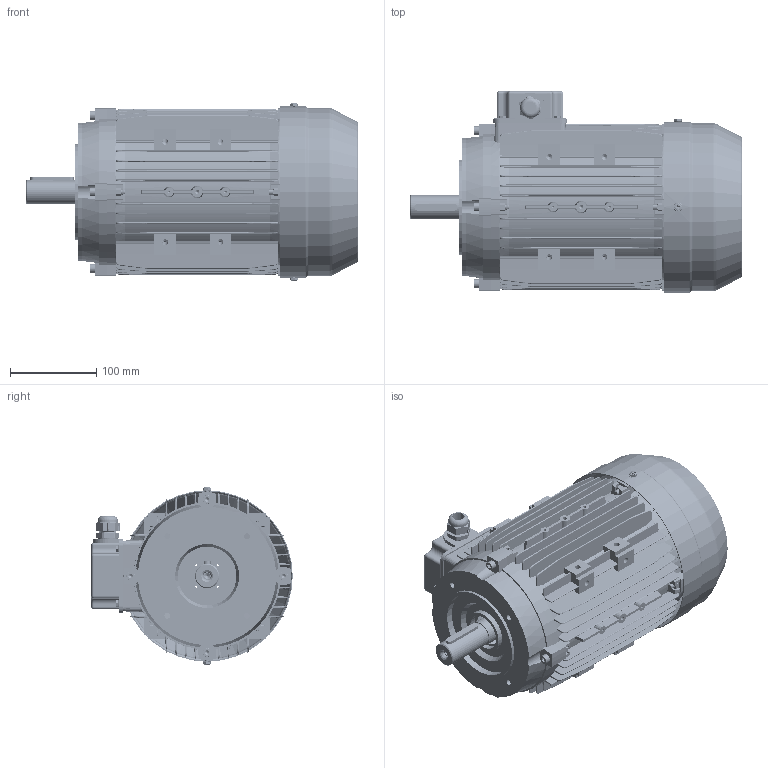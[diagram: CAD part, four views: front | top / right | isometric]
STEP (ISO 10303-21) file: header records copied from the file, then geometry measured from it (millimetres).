
FILE_DESCRIPTION (( 'STEP AP203' ), '1' );
FILE_NAME ('MSL100L assembly B14.STEP', '2017-11-26T09:48:36', ( 'user' ), ( 'china' ), 'SwSTEP 2.0', 'SolidWorks 2016', '' );
FILE_SCHEMA (( 'CONFIG_CONTROL_DESIGN' ));
Length unit declared in the file: millimetre
Products named in the file (15): M100瑞欶_090; M100儂褲_M100L; GB-T 29.2-1988 M4鞠褒坋趼湍菜_05; GB-T 29.2-1988 M5鞠褒坋趼湍菜_08; MSL100L assembly B14; M100-Shaft drive end; MSL80-90堤盄碟蚾饜; MS100 綴裔瑞欶郪磁_90; MSL80-90堤盄碟_MSL80-90; M20 cable gland; GB-T 70.1-2000 M6_34; GB-T 41-2000 M6; GB-T 5780-2000 M6_035; M100傷裔B14; M100傷裔_NonDriveEnd
Assembly tree (32 placements, depth 3):
  MSL100L assembly B14
    M100儂褲_M100L
    M100-Shaft drive end
    MS100 綴裔瑞欶郪磁_90
      M100傷裔_NonDriveEnd
      M100瑞欶_090
      GB-T 29.2-1988 M5鞠褒坋趼湍菜_08  x3
    GB-T 41-2000 M6  x8
    GB-T 70.1-2000 M6_34  x4
    GB-T 5780-2000 M6_035  x4
    MSL80-90堤盄碟蚾饜
      MSL80-90堤盄碟_MSL80-90
      GB-T 29.2-1988 M4鞠褒坋趼湍菜_05  x4
      M20 cable gland
    M100傷裔B14
Bounding box: 384 x 233 x 205 mm (x, y, z)
Volume: 1432670.1 mm3; surface area: 862532 mm2
Topology: 30 solids, 30 shells, 4871 faces, 12513 edges, 7729 vertices
Faces by surface type: plane 1828, cylinder 1278, cone 1068, bspline 552, torus 137, sphere 8
Entity records: 145517 total; most frequent: CARTESIAN_POINT 61122, ORIENTED_EDGE 18350, DIRECTION 15491, EDGE_CURVE 9175, VERTEX_POINT 5831, AXIS2_PLACEMENT_3D 5328, LINE 4835, VECTOR 4835
